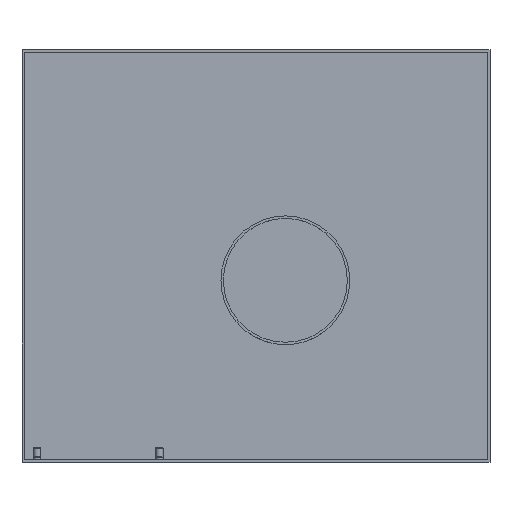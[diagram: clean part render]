
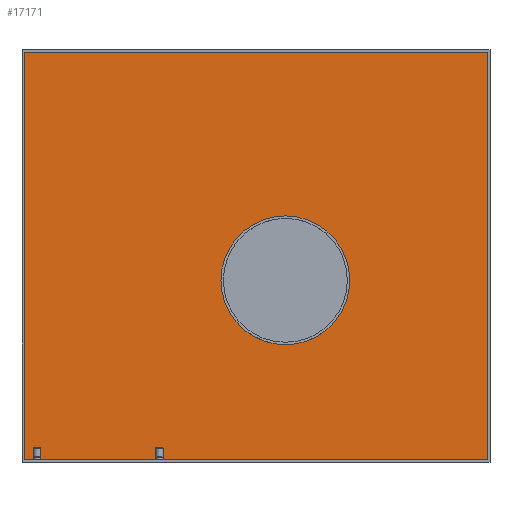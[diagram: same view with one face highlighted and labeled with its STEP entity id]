
A CAD part, top view. The second image highlights one B-rep face of the part: STEP entity #17171.
In plain terms, the highlighted planar face has unit normal (0, 0, 1).
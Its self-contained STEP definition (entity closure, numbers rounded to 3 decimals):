
#102=FACE_BOUND('',#3928,.T.);
#2916=FACE_OUTER_BOUND('',#3927,.T.);
#3927=EDGE_LOOP('',(#15573,#15574,#15575,#15576));
#3928=EDGE_LOOP('',(#15577));
#4326=CIRCLE('',#17694,79.);
#5393=LINE('',#41151,#6500);
#5400=LINE('',#41164,#6507);
#5401=LINE('',#41167,#6508);
#5404=LINE('',#41172,#6511);
#6500=VECTOR('',#19657,10.);
#6507=VECTOR('',#19668,10.);
#6508=VECTOR('',#19671,10.);
#6511=VECTOR('',#19676,10.);
#8216=VERTEX_POINT('',#41148);
#8217=VERTEX_POINT('',#41150);
#8221=VERTEX_POINT('',#41162);
#8222=VERTEX_POINT('',#41166);
#8224=VERTEX_POINT('',#41173);
#10711=EDGE_CURVE('',#8217,#8216,#5393,.T.);
#10718=EDGE_CURVE('',#8221,#8216,#5400,.T.);
#10719=EDGE_CURVE('',#8222,#8217,#5401,.T.);
#10722=EDGE_CURVE('',#8221,#8222,#5404,.T.);
#10723=EDGE_CURVE('',#8224,#8224,#4326,.T.);
#15573=ORIENTED_EDGE('',*,*,#10722,.T.);
#15574=ORIENTED_EDGE('',*,*,#10719,.T.);
#15575=ORIENTED_EDGE('',*,*,#10711,.T.);
#15576=ORIENTED_EDGE('',*,*,#10718,.F.);
#15577=ORIENTED_EDGE('',*,*,#10723,.F.);
#16114=PLANE('',#17693);
#17171=ADVANCED_FACE('',(#2916,#102),#16114,.T.);
#17693=AXIS2_PLACEMENT_3D('',#41171,#19674,#19675);
#17694=AXIS2_PLACEMENT_3D('',#41174,#19677,#19678);
#19657=DIRECTION('',(0.,1.,0.));
#19668=DIRECTION('',(1.,0.,0.));
#19671=DIRECTION('',(1.,0.,0.));
#19674=DIRECTION('center_axis',(0.,0.,1.));
#19675=DIRECTION('ref_axis',(1.,0.,0.));
#19676=DIRECTION('',(0.,-1.,0.));
#19677=DIRECTION('center_axis',(0.,0.,1.));
#19678=DIRECTION('ref_axis',(0.,-1.,0.));
#41148=CARTESIAN_POINT('',(801.371,1363.791,3.));
#41150=CARTESIAN_POINT('',(801.371,863.791,3.));
#41151=CARTESIAN_POINT('',(801.371,1113.791,3.));
#41162=CARTESIAN_POINT('',(233.371,1363.791,3.));
#41164=CARTESIAN_POINT('',(517.371,1363.791,3.));
#41166=CARTESIAN_POINT('',(233.371,863.791,3.));
#41167=CARTESIAN_POINT('',(517.371,863.791,3.));
#41171=CARTESIAN_POINT('Origin',(517.371,1113.791,3.));
#41172=CARTESIAN_POINT('',(233.371,1113.791,3.));
#41173=CARTESIAN_POINT('',(553.371,1162.791,3.));
#41174=CARTESIAN_POINT('Origin',(553.371,1083.791,3.));
